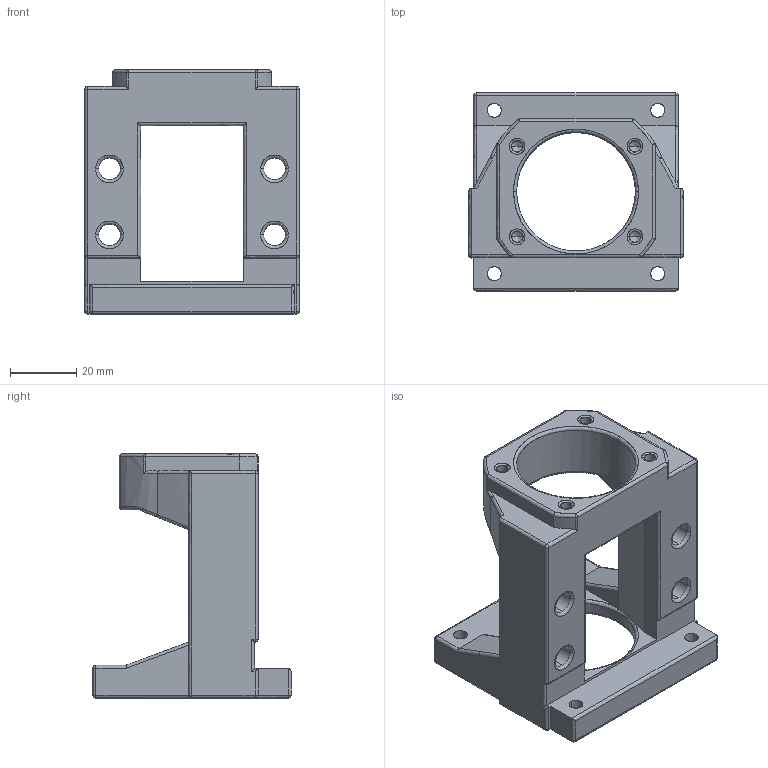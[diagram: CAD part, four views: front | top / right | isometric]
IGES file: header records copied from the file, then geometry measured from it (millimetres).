
Start section: SolidWorks IGES file using analytic representation for surfaces
Global section: file name: C:\Users\117\Desktop\1061208網站3D圖檔問題處理\傳動座\外露型\MBL\MBL10-DP.IGS,15HSolidWorks; native system: 2017; preprocessor: SolidWorks 2017; author: 117; date: 171228.140506; units: millimetre
Bounding box: 65 x 60 x 74 mm (x, y, z)
Surface area: 24713.4 mm2 (no closed solid volume)
Topology: 0 solids, 0 shells, 245 faces, 2777 edges, 2747 vertices
Faces by surface type: revolution 152, bspline 93
